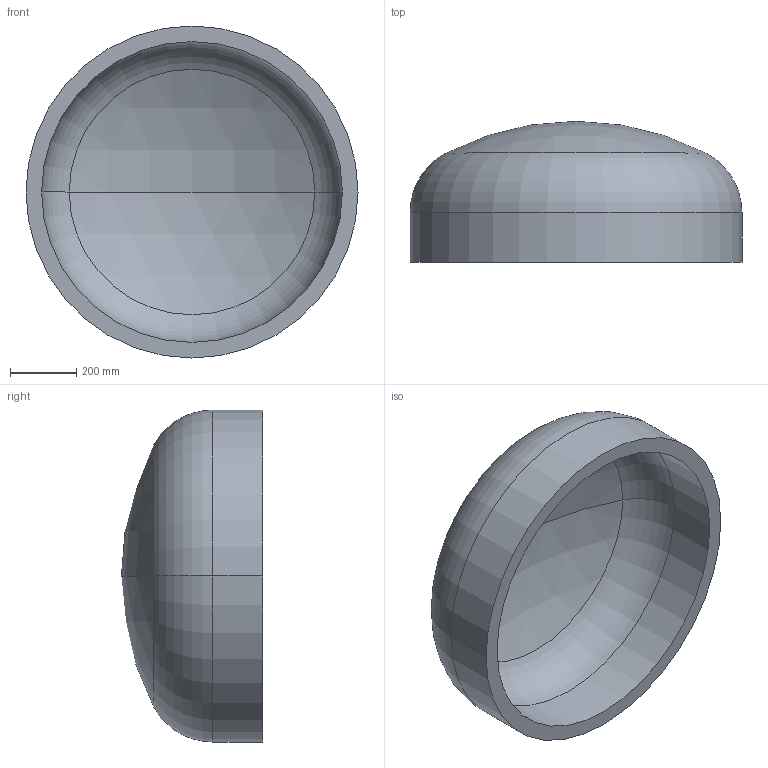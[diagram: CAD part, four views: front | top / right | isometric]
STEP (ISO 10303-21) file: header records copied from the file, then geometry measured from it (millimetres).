
FILE_DESCRIPTION (( 'STEP AP203' ), '1' );
FILE_NAME ('DIN 28013 Korbbogenform_-_Boden DIN 28013 - 1000 x 150 - I - s=47.step', '2016-07-01T08:50:07', ( '' ), ( '' ), 'SwSTEP 2.0', 'SolidWorks 2013', '' );
FILE_SCHEMA (( 'CONFIG_CONTROL_DESIGN' ));
Length unit declared in the file: millimetre
Products named in the file (1): DIN 28013 Korbbogenform_-_Boden DIN 28013 - 1000 x 150 - I - s=47
Bounding box: 1000 x 424.97 x 1000 mm (x, y, z)
Volume: 69292480 mm3; surface area: 3093957.1 mm2
Topology: 1 solids, 1 shells, 13 faces, 24 edges, 14 vertices
Faces by surface type: torus 4, cylinder 4, sphere 4, plane 1
Entity records: 407 total; most frequent: DIRECTION 72, CARTESIAN_POINT 52, ORIENTED_EDGE 48, AXIS2_PLACEMENT_3D 34, EDGE_CURVE 24, CIRCLE 20, EDGE_LOOP 14, VERTEX_POINT 14
